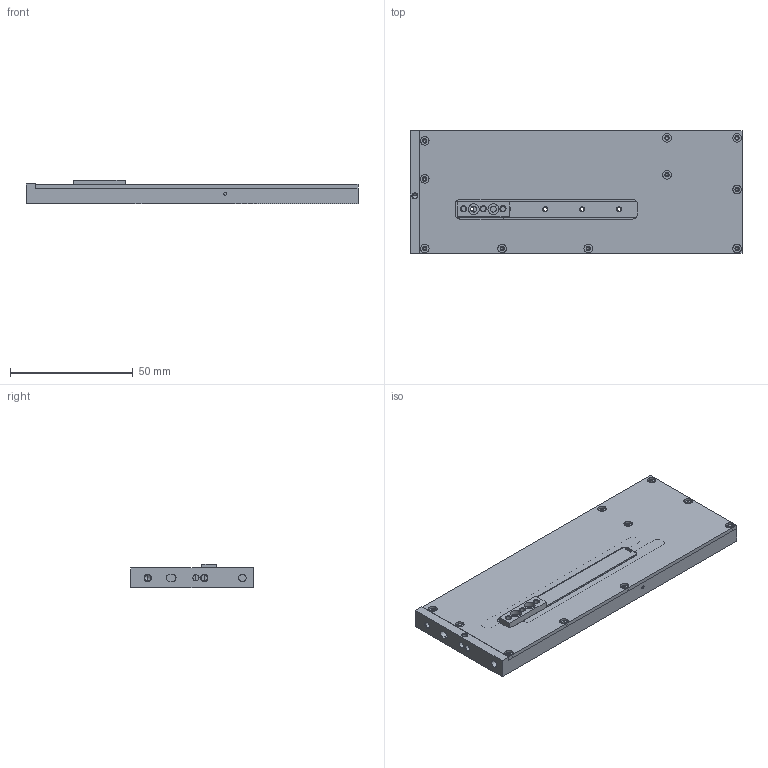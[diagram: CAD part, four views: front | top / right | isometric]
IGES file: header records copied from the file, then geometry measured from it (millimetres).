
Global section: file name: No Iges File Name specified; native system: AutoDesk Inventor R12.0; preprocessor: AutoDesk Inventor Iges Exporter R12.0; date: 20140502.140150; units: millimetre
Bounding box: 135 x 50 x 9.49 mm (x, y, z)
Volume: 29081.1 mm3; surface area: 32324.9 mm2
Topology: 3 solids, 4 shells, 373 faces, 985 edges, 625 vertices
Faces by surface type: bspline 182, plane 135, revolution 56
